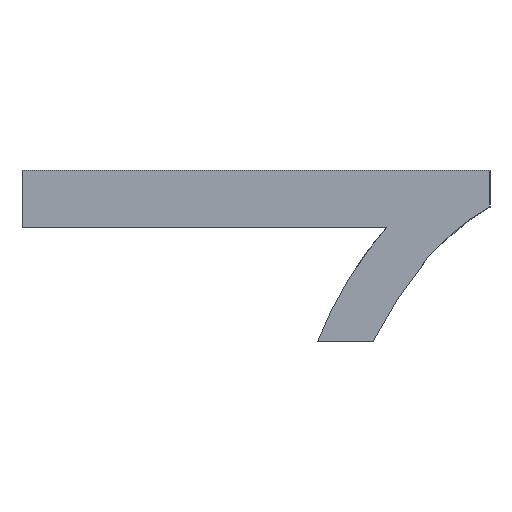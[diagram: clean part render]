
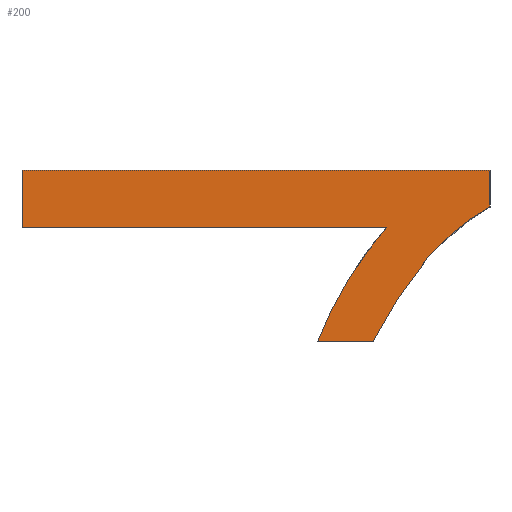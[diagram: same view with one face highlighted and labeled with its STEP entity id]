
A CAD part, top view. The second image highlights one B-rep face of the part: STEP entity #200.
In plain terms, the highlighted planar face has unit normal (0, 0, 1).
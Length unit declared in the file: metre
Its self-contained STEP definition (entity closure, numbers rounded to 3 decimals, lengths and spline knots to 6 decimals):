
#12=B_SPLINE_CURVE_WITH_KNOTS('',3,(#274,#275,#276,#277),.UNSPECIFIED.,
 .F.,.F.,(4,4),(0.,0.000144),.UNSPECIFIED.);
#14=B_SPLINE_CURVE_WITH_KNOTS('',3,(#296,#297,#298,#299,#300),
 .UNSPECIFIED.,.F.,.F.,(4,1,4),(0.,0.007768,0.014413),
 .UNSPECIFIED.);
#16=B_SPLINE_CURVE_WITH_KNOTS('',3,(#324,#325,#326,#327),.UNSPECIFIED.,
 .F.,.F.,(4,4),(0.,0.000216),
 .UNSPECIFIED.);
#18=B_SPLINE_CURVE_WITH_KNOTS('',3,(#346,#347,#348,#349,#350),
 .UNSPECIFIED.,.F.,.F.,(4,1,4),(0.,0.009455,0.017335),
 .UNSPECIFIED.);
#69=ORIENTED_EDGE('',*,*,#103,.T.);
#70=ORIENTED_EDGE('',*,*,#78,.T.);
#71=ORIENTED_EDGE('',*,*,#82,.T.);
#72=ORIENTED_EDGE('',*,*,#85,.T.);
#73=ORIENTED_EDGE('',*,*,#88,.T.);
#74=ORIENTED_EDGE('',*,*,#91,.T.);
#75=ORIENTED_EDGE('',*,*,#94,.T.);
#76=ORIENTED_EDGE('',*,*,#97,.T.);
#77=ORIENTED_EDGE('',*,*,#100,.T.);
#78=EDGE_CURVE('',#105,#106,#123,.T.);
#82=EDGE_CURVE('',#106,#109,#127,.F.);
#85=EDGE_CURVE('',#109,#111,#12,.T.);
#88=EDGE_CURVE('',#111,#113,#14,.T.);
#91=EDGE_CURVE('',#113,#115,#132,.F.);
#94=EDGE_CURVE('',#115,#117,#16,.T.);
#97=EDGE_CURVE('',#117,#119,#18,.T.);
#100=EDGE_CURVE('',#119,#121,#137,.F.);
#103=EDGE_CURVE('',#121,#105,#140,.T.);
#105=VERTEX_POINT('',#251);
#106=VERTEX_POINT('',#252);
#109=VERTEX_POINT('',#260);
#111=VERTEX_POINT('',#278);
#113=VERTEX_POINT('',#301);
#115=VERTEX_POINT('',#310);
#117=VERTEX_POINT('',#328);
#119=VERTEX_POINT('',#351);
#121=VERTEX_POINT('',#360);
#123=LINE('',#250,#142);
#127=LINE('',#259,#146);
#132=LINE('',#309,#151);
#137=LINE('',#359,#156);
#140=LINE('',#365,#159);
#142=VECTOR('',#217,1.);
#146=VECTOR('',#223,1.);
#151=VECTOR('',#230,1.);
#156=VECTOR('',#237,1.);
#159=VECTOR('',#242,1.);
#171=EDGE_LOOP('',(#69,#70,#71,#72,#73,#74,#75,#76,#77));
#182=FACE_BOUND('',#171,.T.);
#189=PLANE('',#212);
#200=ADVANCED_FACE('',(#182),#189,.F.);
#212=AXIS2_PLACEMENT_3D('',#368,#246,#247);
#217=DIRECTION('',(0.,-1.,0.));
#223=DIRECTION('',(-1.,0.,0.));
#230=DIRECTION('',(-1.,0.,0.));
#237=DIRECTION('',(0.,-1.,0.));
#242=DIRECTION('',(-1.,0.,0.));
#246=DIRECTION('',(0.,0.,-1.));
#247=DIRECTION('',(0.,-1.,0.));
#250=CARTESIAN_POINT('',(-0.036413,0.,-0.03));
#251=CARTESIAN_POINT('',(-0.036413,0.001448,-0.03));
#252=CARTESIAN_POINT('',(-0.036413,0.001325,-0.03));
#259=CARTESIAN_POINT('',(-0.035913,0.001325,-0.03));
#260=CARTESIAN_POINT('',(-0.03563,0.001325,-0.03));
#274=CARTESIAN_POINT('',(-0.03563,0.001325,-0.03));
#275=CARTESIAN_POINT('',(-0.035662,0.001289,-0.03));
#276=CARTESIAN_POINT('',(-0.03569,0.00125,-0.03));
#277=CARTESIAN_POINT('',(-0.035715,0.001209,-0.03));
#278=CARTESIAN_POINT('',(-0.035715,0.001209,-0.03));
#296=CARTESIAN_POINT('',(-0.035715,0.001209,-0.03));
#297=CARTESIAN_POINT('',(-0.035728,0.001186,-0.03));
#298=CARTESIAN_POINT('',(-0.035751,0.001144,-0.03));
#299=CARTESIAN_POINT('',(-0.03577,0.0011,-0.03));
#300=CARTESIAN_POINT('',(-0.035778,0.001079,-0.03));
#301=CARTESIAN_POINT('',(-0.035778,0.001079,-0.03));
#309=CARTESIAN_POINT('',(-0.035913,0.001079,-0.03));
#310=CARTESIAN_POINT('',(-0.035659,0.001079,-0.03));
#324=CARTESIAN_POINT('',(-0.035659,0.001079,-0.03));
#325=CARTESIAN_POINT('',(-0.035627,0.001144,-0.03));
#326=CARTESIAN_POINT('',(-0.035588,0.001204,-0.03));
#327=CARTESIAN_POINT('',(-0.035542,0.00126,-0.03));
#328=CARTESIAN_POINT('',(-0.035542,0.00126,-0.03));
#346=CARTESIAN_POINT('',(-0.035542,0.00126,-0.03));
#347=CARTESIAN_POINT('',(-0.03552,0.001283,-0.03));
#348=CARTESIAN_POINT('',(-0.035481,0.001325,-0.03));
#349=CARTESIAN_POINT('',(-0.035431,0.001355,-0.03));
#350=CARTESIAN_POINT('',(-0.035408,0.001369,-0.03));
#351=CARTESIAN_POINT('',(-0.035408,0.001369,-0.03));
#359=CARTESIAN_POINT('',(-0.035408,0.,-0.03));
#360=CARTESIAN_POINT('',(-0.035408,0.001448,-0.03));
#365=CARTESIAN_POINT('',(-0.035913,0.001448,-0.03));
#368=CARTESIAN_POINT('',(-0.035913,0.,-0.03));
